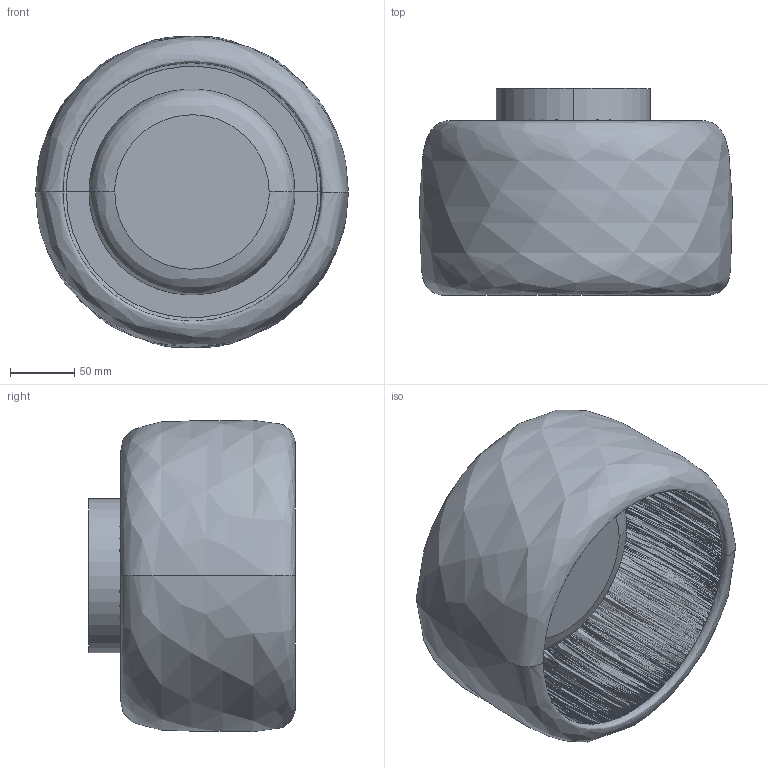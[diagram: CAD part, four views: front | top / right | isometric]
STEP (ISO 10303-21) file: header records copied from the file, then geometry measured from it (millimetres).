
FILE_DESCRIPTION (( 'STEP AP214' ), '1' );
FILE_NAME ('ISES_A1364.STEP', '2026-09-11T15:24:12', ( '' ), ( '' ), 'SwSTEP 2.0', 'SolidWorks 2023', '' );
FILE_SCHEMA (( 'AUTOMOTIVE_DESIGN' ));
Length unit declared in the file: millimetre
Products named in the file (4): ISES_A1364; floron; ISES_LED; ISES_SHADES
Assembly tree (3 placements, depth 2):
  ISES_A1364
    ISES_SHADES
    ISES_LED
    floron
Bounding box: 243.21 x 160.7 x 242.05 mm (x, y, z)
Volume: 1248249 mm3; surface area: 485695.7 mm2
Topology: 2 solids, 80 shells, 556 faces, 1228 edges, 807 vertices
Faces by surface type: bspline 549, cylinder 4, plane 3
Entity records: 23398 total; most frequent: CARTESIAN_POINT 14963, ORIENTED_EDGE 2392, EDGE_CURVE 1226, B_SPLINE_CURVE_WITH_KNOTS 967, VERTEX_POINT 807, EDGE_LOOP 571, FACE_OUTER_BOUND 556, ADVANCED_FACE 556
